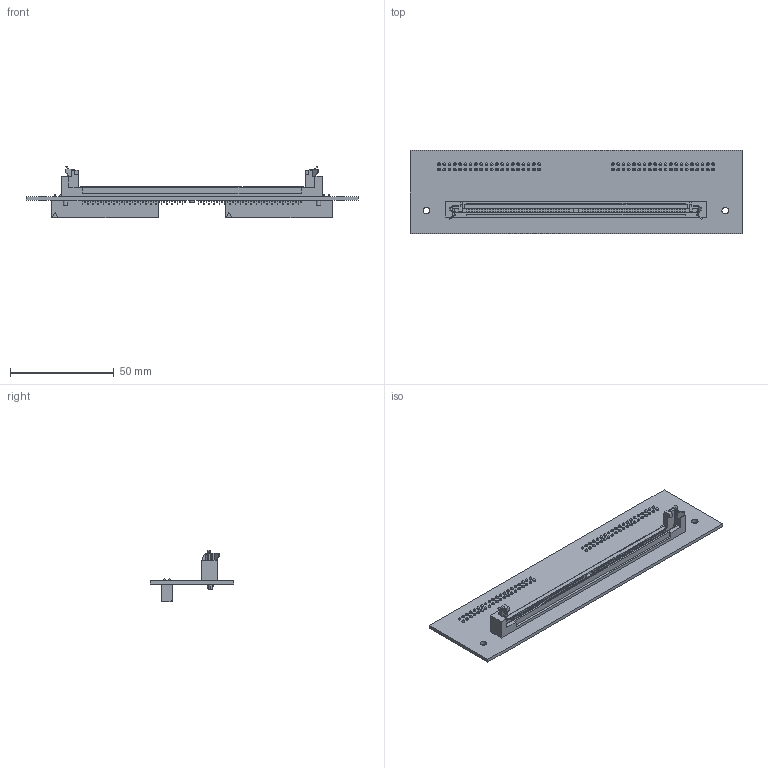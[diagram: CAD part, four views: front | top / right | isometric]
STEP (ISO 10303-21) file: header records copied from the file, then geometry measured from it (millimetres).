
FILE_DESCRIPTION(('KiCad electronic assembly'),'2;1');
FILE_NAME('Thales_Flashprogrammer_v3_FlashSim.step', '2024-09-04T15:04:49',('Pcbnew'),('Kicad'), 'Open CASCADE STEP processor 7.5','KiCad to STEP converter','Unknown' );
FILE_SCHEMA(('AUTOMOTIVE_DESIGN { 1 0 10303 214 1 1 1 1 }'));
Length unit declared in the file: millimetre
Products named in the file (6): Thales_Flashprogrammer_v3_FlashSim 1; 5822030-4; C-5822030-04-3; SSW-120-01-G-D; ASSEMBLY; Thales_Flashprogrammer_v3_FlashSim PCB
Assembly tree (6 placements, depth 3):
  Thales_Flashprogrammer_v3_FlashSim 1
    5822030-4
      C-5822030-04-3
    SSW-120-01-G-D  x2
      ASSEMBLY
    Thales_Flashprogrammer_v3_FlashSim PCB
Bounding box: 160 x 40 x 24.87 mm (x, y, z)
Volume: 17790.9 mm3; surface area: 24415.5 mm2
Topology: 84 solids, 84 shells, 3518 faces, 8425 edges, 5398 vertices
Faces by surface type: plane 3075, cylinder 437, cone 6
Full cylindrical faces by diameter (mm): 1.02 x80, 1.3 x80, 2.03 x1, 2.44 x2, 3.2 x2
Entity records: 170412 total; most frequent: CARTESIAN_POINT 29832, DIRECTION 26440, LINE 18642, VECTOR 18642, ORIENTED_EDGE 13608, PCURVE 13608, DEFINITIONAL_REPRESENTATION 13608, EDGE_CURVE 6804
